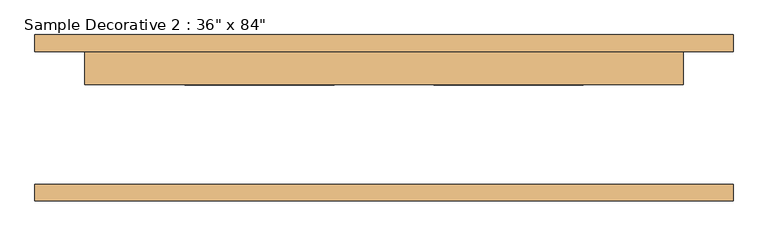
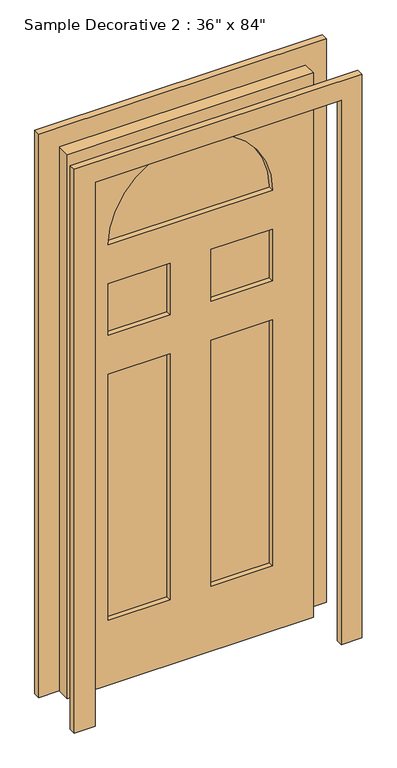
"""IFC4 building model written with IfcOpenShell, lengths in millimetres: door geometry."""

import ifcopenshell
import ifcopenshell.guid

model = None  # the IFC model being written
_history = None  # IfcOwnerHistory: only IFC2X3 demands one
_inside = {}  # id of a spatial element -> (the spatial element, [elements in it])
_under = {}  # id of a project, library or spatial element -> (it, [spatial elements below it])
_declared = {}  # id of a project -> (the project, [libraries it declares])
_typed = {}  # id of a type object -> (the type object, [elements of that type])
_made_of = {}  # id of a material, layer set ... -> (it, [elements and type objects made of it])


def new_model(schema):
    """Start an empty IFC model of exactly this schema.

    Asked for "IFC4X3", IfcOpenShell would pick the latest addendum, in which some entities
    have other attributes; the version numbers below select the first issue.
    IFC2X3 requires an IfcOwnerHistory on every rooted entity: one is made here for all.
    """
    global model, _history
    if schema == "IFC4X3":
        model = ifcopenshell.file(schema_version=(4, 3, 0, 0))
    else:
        model = ifcopenshell.file(schema=schema)
    _inside.clear()
    _under.clear()
    _declared.clear()
    _typed.clear()
    _made_of.clear()
    _history = None
    if model.schema == "IFC2X3":
        org = make("IfcOrganization", Name="unknown")
        user = make(
            "IfcPersonAndOrganization",
            ThePerson=make("IfcPerson", FamilyName="unknown"),
            TheOrganization=org,
        )
        app = make(
            "IfcApplication",
            ApplicationDeveloper=org,
            Version="unknown",
            ApplicationFullName="unknown",
            ApplicationIdentifier="unknown",
        )
        _history = make(
            "IfcOwnerHistory",
            OwningUser=user,
            OwningApplication=app,
            ChangeAction="ADDED",
            CreationDate=0,
        )
    return model


def make(cls, **values):
    """One entity of the class cls with the attributes given. An attribute that is None is left unset."""
    return model.create_entity(
        cls, **{name: value for name, value in values.items() if value is not None}
    )


def rooted(cls, **values):
    """An entity with a GlobalId (a new one), such as an element, a storey or a relation."""
    return make(cls, GlobalId=ifcopenshell.guid.new(), OwnerHistory=_history, **values)


def si_unit(unit_type, name, prefix=None):
    """IfcSIUnit, for example si_unit("LENGTHUNIT", "METRE", prefix="MILLI")."""
    return make("IfcSIUnit", UnitType=unit_type, Prefix=prefix, Name=name)


def assignment(units):
    """IfcUnitAssignment: the units of a project."""
    return None if units is None else make("IfcUnitAssignment", Units=units)


def point(xyz):
    """IfcCartesianPoint."""
    return None if xyz is None else make("IfcCartesianPoint", Coordinates=xyz)


def direction(xyz):
    """IfcDirection."""
    return None if xyz is None else make("IfcDirection", DirectionRatios=xyz)


def frame(location, z_axis=None, x_axis=None):
    """IfcAxis2Placement3D, a coordinate frame: its origin and axes. An axis left out is left unset."""
    return make(
        "IfcAxis2Placement3D",
        Location=point(location),
        Axis=direction(z_axis),
        RefDirection=direction(x_axis),
    )


def frame_2d(location, x_axis=None):
    """IfcAxis2Placement2D, a coordinate frame in the plane: its origin and x axis."""
    return make(
        "IfcAxis2Placement2D", Location=point(location), RefDirection=direction(x_axis)
    )


def origin():
    """The frame at (0, 0, 0) with its axes left unset."""
    return frame((0.0, 0.0, 0.0))


def place(relative_to, where):
    """IfcLocalPlacement: puts the frame where relative to a parent placement (None: the world)."""
    return make(
        "IfcLocalPlacement", PlacementRelTo=relative_to, RelativePlacement=where
    )


def context(
    kind, dimensions, precision=None, world=None, true_north=None, identifier=None
):
    """IfcGeometricRepresentationContext, for example the 3D "Model" context."""
    return make(
        "IfcGeometricRepresentationContext",
        ContextIdentifier=identifier,
        ContextType=kind,
        CoordinateSpaceDimension=dimensions,
        Precision=precision,
        WorldCoordinateSystem=world,
        TrueNorth=true_north,
    )


def project(units=None, contexts=None):
    """IfcProject with its units and contexts."""
    return rooted(
        "IfcProject",
        Name="project",
        RepresentationContexts=contexts,
        UnitsInContext=assignment(units),
    )


def spatial(cls, under=None, at=None, **own):
    """A site, building, storey or space (cls), placed at a placement, below another one or the project."""
    s = rooted(cls, ObjectPlacement=at, **own)
    if under is not None:
        _under.setdefault(under.id(), (under, []))[1].append(s)
    return s


def polyline(points):
    """IfcPolyline through the points."""
    return make("IfcPolyline", Points=[point(p) for p in points])


def circle_curve(where, radius):
    """IfcCircle in the frame where."""
    return make("IfcCircle", Position=where, Radius=radius)


def trimmed(basis, trim1, trim2, sense, master):
    """IfcTrimmedCurve: the piece of a basis curve between two trims."""
    return make(
        "IfcTrimmedCurve",
        BasisCurve=basis,
        Trim1=trim1,
        Trim2=trim2,
        SenseAgreement=sense,
        MasterRepresentation=master,
    )


def segment(curve, same_sense, transition):
    """IfcCompositeCurveSegment."""
    return make(
        "IfcCompositeCurveSegment",
        Transition=transition,
        SameSense=same_sense,
        ParentCurve=curve,
    )


def composite_curve(segments, self_intersect=None):
    """IfcCompositeCurve: segments joined end to end."""
    return make("IfcCompositeCurve", Segments=segments, SelfIntersect=self_intersect)


def outline(outer, holes=None, kind="AREA"):
    """IfcArbitraryClosedProfileDef: a profile drawn as a closed curve; with holes, ...WithVoids."""
    if holes is None:
        return make("IfcArbitraryClosedProfileDef", ProfileType=kind, OuterCurve=outer)
    return make(
        "IfcArbitraryProfileDefWithVoids",
        ProfileType=kind,
        OuterCurve=outer,
        InnerCurves=holes,
    )


def extrude(swept, where, along, depth):
    """IfcExtrudedAreaSolid: the profile swept, set in the frame where, extruded along a direction by depth."""
    return make(
        "IfcExtrudedAreaSolid",
        SweptArea=swept,
        Position=where,
        ExtrudedDirection=direction(along),
        Depth=depth,
    )


def shape(context_of_items, identifier, shape_type, items):
    """IfcShapeRepresentation: the items that make up one representation, for example the "Body"."""
    return make(
        "IfcShapeRepresentation",
        ContextOfItems=context_of_items,
        RepresentationIdentifier=identifier,
        RepresentationType=shape_type,
        Items=items,
    )


def source(mapping_origin, context_of_items, identifier, shape_type, items):
    """IfcRepresentationMap: a shape defined once, which mapped items show again and again."""
    return make(
        "IfcRepresentationMap",
        MappingOrigin=mapping_origin,
        MappedRepresentation=shape(context_of_items, identifier, shape_type, items),
    )


def transform(
    local_origin,
    x_axis=None,
    y_axis=None,
    z_axis=None,
    scale=None,
    scale2=None,
    scale3=None,
    uniform=True,
):
    """IfcCartesianTransformationOperator3D, or its non-uniform kind. x_axis, y_axis, z_axis: its Axis1, 2, 3."""
    if uniform:
        return make(
            "IfcCartesianTransformationOperator3D",
            Axis1=direction(x_axis),
            Axis2=direction(y_axis),
            LocalOrigin=point(local_origin),
            Scale=scale,
            Axis3=direction(z_axis),
        )
    return make(
        "IfcCartesianTransformationOperator3DnonUniform",
        Axis1=direction(x_axis),
        Axis2=direction(y_axis),
        LocalOrigin=point(local_origin),
        Scale=scale,
        Axis3=direction(z_axis),
        Scale2=scale2,
        Scale3=scale3,
    )


def mapped(mapping_source, mapping_target):
    """IfcMappedItem: shows the shape of a source again, moved by a transform."""
    return make(
        "IfcMappedItem", MappingSource=mapping_source, MappingTarget=mapping_target
    )


def made_of(thing, what):
    """Note that an element or type object is made of a material, layer set ...; save() writes the relation."""
    if what is not None:
        _made_of.setdefault(what.id(), (what, []))[1].append(thing)
    return thing


def element(
    cls,
    number,
    at=None,
    inside=None,
    cuts=None,
    type_object=None,
    material=None,
    context=None,
    identifier="Body",
    shape_type=None,
    held_by="IfcProductDefinitionShape",
    body=None,
    shapes=None,
    **own,
):
    """One element of the class cls, such as IfcWall. Its Tag is "e" and its number.

    at: its placement. inside: the storey or other place that contains it. cuts: it is an
    opening in that element (IfcRelVoidsElement). A single representation is given by context,
    identifier, shape_type and body (its items); several are given by shapes. held_by: the class
    of the entity that holds the representations. save() writes the other relations.
    """
    e = rooted(cls, Tag="e%d" % number, ObjectPlacement=at, **own)
    if body is not None:
        shapes = [shape(context, identifier, shape_type, body)]
    if shapes is not None:
        e.Representation = make(held_by, Representations=shapes)
    if inside is not None:
        _inside.setdefault(inside.id(), (inside, []))[1].append(e)
    if cuts is not None:
        rooted(
            "IfcRelVoidsElement", RelatingBuildingElement=cuts, RelatedOpeningElement=e
        )
    if type_object is not None:
        _typed.setdefault(type_object.id(), (type_object, []))[1].append(e)
    return made_of(e, material)


def aggregate(whole, parts):
    """IfcRelAggregates: a whole, such as a stair, and the parts it consists of."""
    return rooted("IfcRelAggregates", RelatingObject=whole, RelatedObjects=parts)


def save(model, path):
    """Write the relations noted so far, then the file.

    IfcRelAggregates (storeys below a building ...), IfcRelContainedInSpatialStructure (elements
    in a storey), IfcRelDefinesByType, IfcRelAssociatesMaterial and IfcRelDeclares: one each for
    every whole, place, type object, material and project.
    """
    for whole, parts in _under.values():
        aggregate(whole, parts)
    for where, things in _inside.values():
        rooted(
            "IfcRelContainedInSpatialStructure",
            RelatedElements=things,
            RelatingStructure=where,
        )
    for kind, things in _typed.values():
        rooted("IfcRelDefinesByType", RelatedObjects=things, RelatingType=kind)
    for what, things in _made_of.values():
        rooted("IfcRelAssociatesMaterial", RelatedObjects=things, RelatingMaterial=what)
    for by, libraries in _declared.values():
        rooted("IfcRelDeclares", RelatingContext=by, RelatedDefinitions=libraries)
    model.write(path)


def door_b1a02c97(model_context):
    return source(origin(), model_context, "Body", "SweptSolid", [
        extrude(outline(polyline([(0.0, 457.2), (0.0, 533.4), (2209.8, 533.4), (2209.8, -533.4), (0.0, -533.4), (0.0, -457.2), (2133.6, -457.2), (2133.6, 457.2), (0.0, 457.2)])), frame((0.0, -127.0, 0.0), z_axis=(0.0, 1.0, 0.0), x_axis=(0.0, 0.0, 1.0)), (0.0, 0.0, 1.0), 25.4),
        extrude(outline(polyline([(2209.8, -533.4), (0.0, -533.4), (0.0, -457.2), (2133.6, -457.2), (2133.6, 457.2), (0.0, 457.2), (0.0, 533.4), (2209.8, 533.4), (2209.8, -533.4)])), frame((0.0, 101.6, 0.0), z_axis=(0.0, 1.0, 0.0), x_axis=(0.0, 0.0, 1.0)), (0.0, 0.0, 1.0), 25.4),
        extrude(outline(composite_curve([segment(polyline([(1727.2, -304.8), (1727.2, 304.8)]), True, "CONTINUOUS"), segment(trimmed(circle_curve(frame_2d((1727.2, 0.0)), 304.8), [point((1727.2, 304.8))], [point((1727.2, -304.8))], False, "CARTESIAN"), True, "CONTINUOUS")], self_intersect=False)), frame((0.0, 71.4375, 0.0), z_axis=(0.0, 1.0, 0.0), x_axis=(0.0, 0.0, 1.0)), (0.0, 0.0, 1.0), 17.4625),
        extrude(outline(polyline([(-304.8, 88.9), (-76.2, 88.9), (-76.2, 71.4375), (-304.8, 71.4375), (-304.8, 88.9)])), frame((0.0, 0.0, 254.0), z_axis=(0.0, 0.0, 1.0), x_axis=(1.0, 0.0, 0.0)), (0.0, 0.0, 1.0), 965.2),
        extrude(outline(polyline([(76.2, 88.9), (304.8, 88.9), (304.8, 71.4375), (76.2, 71.4375), (76.2, 88.9)])), frame((0.0, 0.0, 254.0), z_axis=(0.0, 0.0, 1.0), x_axis=(1.0, 0.0, 0.0)), (0.0, 0.0, 1.0), 965.2),
        extrude(outline(polyline([(76.2, 88.9), (304.8, 88.9), (304.8, 71.4375), (76.2, 71.4375), (76.2, 88.9)])), frame((0.0, 0.0, 1371.6), z_axis=(0.0, 0.0, 1.0), x_axis=(1.0, 0.0, 0.0)), (0.0, 0.0, 1.0), 203.2),
        extrude(outline(polyline([(-304.8, 88.9), (-76.2, 88.9), (-76.2, 71.4375), (-304.8, 71.4375), (-304.8, 88.9)])), frame((0.0, 0.0, 1371.6), z_axis=(0.0, 0.0, 1.0), x_axis=(1.0, 0.0, 0.0)), (0.0, 0.0, 1.0), 203.2),
        extrude(outline(polyline([(2133.6, -457.2), (0.0, -457.2), (0.0, 457.2), (2133.6, 457.2), (2133.6, -457.2)]), holes=[polyline([(254.0, 76.2), (1219.2, 76.2), (1219.2, 304.8), (254.0, 304.8), (254.0, 76.2)]), polyline([(254.0, -304.8), (1219.2, -304.8), (1219.2, -76.2), (254.0, -76.2), (254.0, -304.8)]), polyline([(1371.6, 76.2), (1574.8, 76.2), (1574.8, 304.8), (1371.6, 304.8), (1371.6, 76.2)]), polyline([(1371.6, -304.8), (1574.8, -304.8), (1574.8, -76.2), (1371.6, -76.2), (1371.6, -304.8)]), composite_curve([segment(trimmed(circle_curve(frame_2d((1727.2, 0.0)), 304.8), [point((1727.2, -304.8))], [point((1727.2, 304.8))], True, "CARTESIAN"), True, "CONTINUOUS"), segment(polyline([(1727.2, 304.8), (1727.2, -304.8)]), True, "CONTINUOUS")], self_intersect=False)]), frame((0.0, 50.8, 0.0), z_axis=(0.0, 1.0, 0.0), x_axis=(0.0, 0.0, 1.0)), (0.0, 0.0, 1.0), 50.8),
    ])


if __name__ == "__main__":
    model = new_model("IFC4")
    model_context = context("Model", 3, world=origin())
    ifc_project = project(units=[si_unit("LENGTHUNIT", "METRE", prefix="MILLI")], contexts=[model_context])
    site = spatial("IfcSite", under=ifc_project)
    building = spatial("IfcBuilding", under=site)
    placement = place(None, origin())
    door_shape = door_b1a02c97(model_context)
    element("IfcDoor", 1, ObjectType="Sample Decorative 2 : 36\" x 84\"", at=placement, inside=building, context=model_context, shape_type="MappedRepresentation", body=[
        mapped(door_shape, transform((0.0, 0.0, 0.0), x_axis=(1.0, 0.0, 0.0), y_axis=(0.0, 1.0, 0.0), z_axis=(0.0, 0.0, 1.0))),
    ])
    save(model, "model.ifc")
